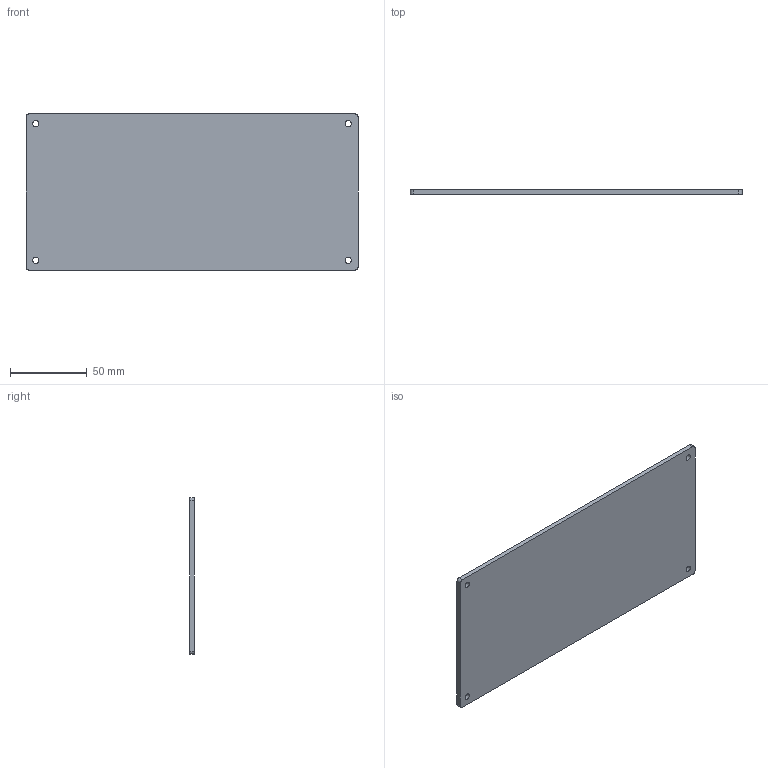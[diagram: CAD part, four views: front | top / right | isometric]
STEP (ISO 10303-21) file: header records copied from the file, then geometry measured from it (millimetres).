
FILE_DESCRIPTION(/* description */ ('STEP AP242 Edition 2','CAx-IF Rec.Pracs.---Representation and Presentation of Product Manufacturing Information (PMI)---4.0---2014-10-13','CAx-IF Rec.Pracs.---3D Tessellated Geometry---0.4---2014-09-14','2;1','CAx-IF Rec.Pracs.---User Defined Attributes---1.5---2016-08-15'),/* implementation_level */ '2;1');
FILE_NAME(/* name */ '697ce06ffb3a1f34494687fd',/* time_stamp */ '2026-01-30T16:46:40Z',/* author */ (''),/* organization */ (''),/* preprocessor_version */ 'ST-DEVELOPER v20',/* originating_system */ 'ONSHAPE BY PTC INC, 1.209',/* authorisation */ ' ');
FILE_SCHEMA (('AP242_MANAGED_MODEL_BASED_3D_ENGINEERING_MIM_LF { 1 0 10303 442 3 1 4 }'));
Length unit declared in the file: metre
Products named in the file (1): Part 1
Bounding box: 215.9 x 3.17 x 101.6 mm (x, y, z)
Volume: 69474.5 mm3; surface area: 45928.3 mm2
Topology: 1 solids, 1 shells, 14 faces, 36 edges, 24 vertices
Faces by surface type: cylinder 8, plane 6
Full cylindrical faces by diameter (mm): 4 x4
Entity records: 454 total; most frequent: DIRECTION 78, CARTESIAN_POINT 71, ORIENTED_EDGE 64, EDGE_CURVE 32, AXIS2_PLACEMENT_3D 31, EDGE_LOOP 26, FACE_BOUND 26, VERTEX_POINT 24
